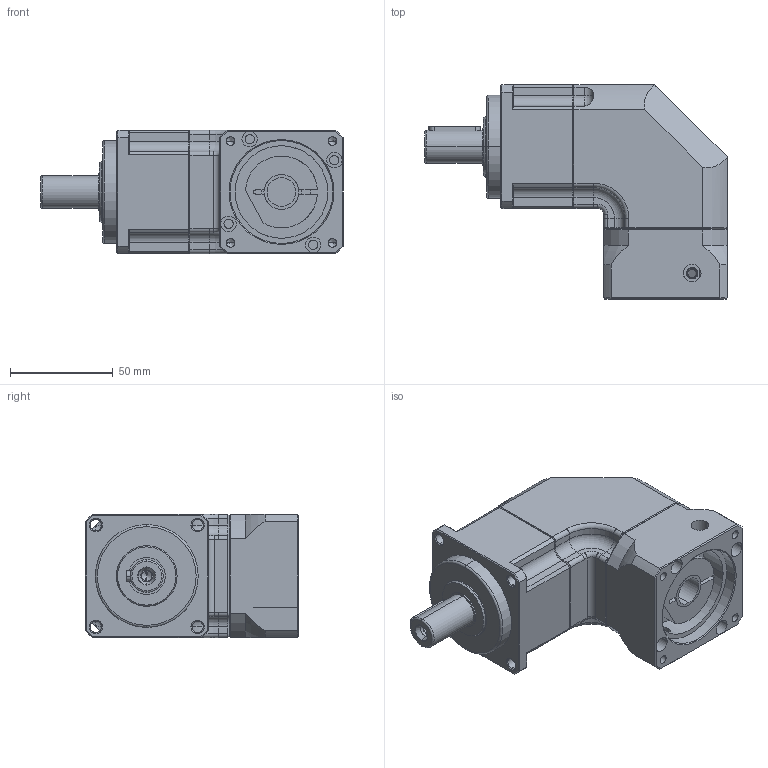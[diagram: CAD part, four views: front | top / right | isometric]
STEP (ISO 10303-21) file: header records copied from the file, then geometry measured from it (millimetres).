
FILE_DESCRIPTION (( 'STEP AP203' ), '1' );
FILE_NAME ('TBR060-L1-14-50-70-M5-36-6.STEP', '2020-11-24T07:50:56', ( '' ), ( '' ), 'SwSTEP 2.0', 'SolidWorks 2017', '' );
FILE_SCHEMA (( 'CONFIG_CONTROL_DESIGN' ));
Length unit declared in the file: millimetre
Products named in the file (1): TBR060-L1-14-50-70-M5-36-6
Bounding box: 147 x 104 x 60 mm (x, y, z)
Volume: 459885.3 mm3; surface area: 72393.6 mm2
Topology: 5 solids, 5 shells, 393 faces, 912 edges, 545 vertices
Faces by surface type: cylinder 144, plane 139, cone 88, torus 22
Entity records: 11615 total; most frequent: CARTESIAN_POINT 2546, DIRECTION 1966, ORIENTED_EDGE 1804, EDGE_CURVE 902, AXIS2_PLACEMENT_3D 767, VERTEX_POINT 545, EDGE_LOOP 445, VECTOR 432
